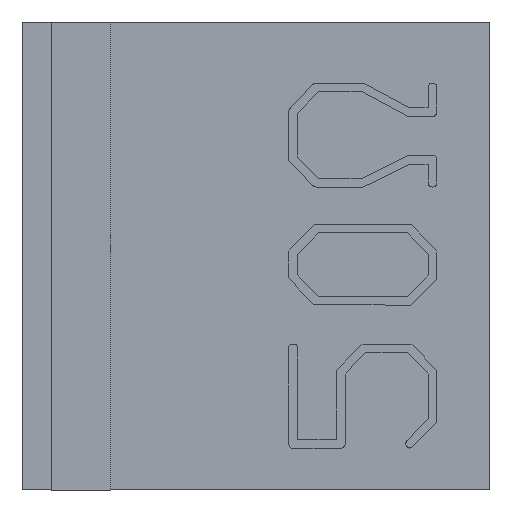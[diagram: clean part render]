
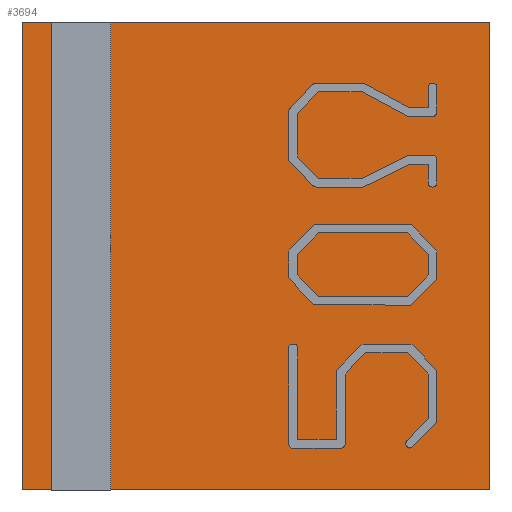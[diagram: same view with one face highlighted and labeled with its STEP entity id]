
A CAD part, front view. The second image highlights one B-rep face of the part: STEP entity #3694.
In plain terms, the highlighted planar face has unit normal (0, -1, 0).
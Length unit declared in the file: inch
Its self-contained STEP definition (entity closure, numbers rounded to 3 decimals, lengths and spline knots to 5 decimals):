
#75 = CARTESIAN_POINT ( 'NONE',  ( 0., 0., 0. ) ) ;
#224 = CARTESIAN_POINT ( 'NONE',  ( 0., 0., -0.079 ) ) ;
#334 = LINE ( 'NONE', #2886, #422 ) ;
#392 = EDGE_CURVE ( 'NONE', #416, #1328, #334, .T. ) ;
#416 = VERTEX_POINT ( 'NONE', #75 ) ;
#422 = VECTOR ( 'NONE', #2014, 39.37008 ) ;
#439 = DIRECTION ( 'NONE',  ( 0., -1., 0. ) ) ;
#618 = EDGE_CURVE ( 'NONE', #1328, #2523, #3761, .T. ) ;
#710 = DIRECTION ( 'NONE',  ( -1., 0., 0. ) ) ;
#1178 = LINE ( 'NONE', #5539, #2154 ) ;
#1212 = FACE_OUTER_BOUND ( 'NONE', #1606, .T. ) ;
#1248 = CARTESIAN_POINT ( 'NONE',  ( 0.079, 0., -0.079 ) ) ;
#1328 = VERTEX_POINT ( 'NONE', #4101 ) ;
#1606 = EDGE_LOOP ( 'NONE', ( #5199, #4485, #2600, #5742 ) ) ;
#1918 = AXIS2_PLACEMENT_3D ( 'NONE', #6118, #439, #3302 ) ;
#2014 = DIRECTION ( 'NONE',  ( 1., 0., 0. ) ) ;
#2154 = VECTOR ( 'NONE', #5084, 39.37008 ) ;
#2523 = VERTEX_POINT ( 'NONE', #1248 ) ;
#2600 = ORIENTED_EDGE ( 'NONE', *, *, #618, .F. ) ;
#2886 = CARTESIAN_POINT ( 'NONE',  ( 0., 0., 0. ) ) ;
#2889 = CARTESIAN_POINT ( 'NONE',  ( 0., 0., -0.079 ) ) ;
#3302 = DIRECTION ( 'NONE',  ( 0., 0., -1. ) ) ;
#3400 = VECTOR ( 'NONE', #710, 39.37008 ) ;
#3694 = ADVANCED_FACE ( 'NONE', ( #1212 ), #4188, .T. ) ;
#3761 = LINE ( 'NONE', #5395, #4578 ) ;
#3803 = VERTEX_POINT ( 'NONE', #2889 ) ;
#4101 = CARTESIAN_POINT ( 'NONE',  ( 0.079, 0., 0. ) ) ;
#4188 = PLANE ( 'NONE',  #1918 ) ;
#4485 = ORIENTED_EDGE ( 'NONE', *, *, #6103, .F. ) ;
#4578 = VECTOR ( 'NONE', #4887, 39.37008 ) ;
#4651 = EDGE_CURVE ( 'NONE', #3803, #416, #1178, .T. ) ;
#4887 = DIRECTION ( 'NONE',  ( 0., 0., -1. ) ) ;
#5084 = DIRECTION ( 'NONE',  ( 0., 0., 1. ) ) ;
#5199 = ORIENTED_EDGE ( 'NONE', *, *, #4651, .F. ) ;
#5386 = LINE ( 'NONE', #224, #3400 ) ;
#5395 = CARTESIAN_POINT ( 'NONE',  ( 0.079, 0., 0. ) ) ;
#5539 = CARTESIAN_POINT ( 'NONE',  ( 0., 0., 0. ) ) ;
#5742 = ORIENTED_EDGE ( 'NONE', *, *, #392, .F. ) ;
#6103 = EDGE_CURVE ( 'NONE', #2523, #3803, #5386, .T. ) ;
#6118 = CARTESIAN_POINT ( 'NONE',  ( 0., 0., 0. ) ) ;
